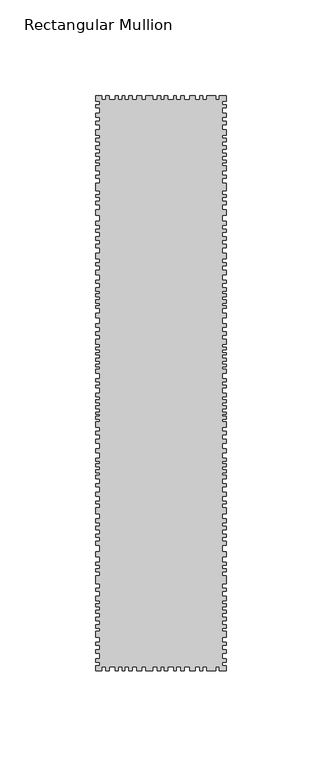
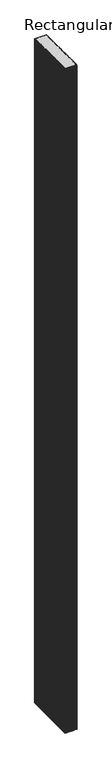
"""IFC4 building model written with IfcOpenShell, lengths in millimetres: member geometry, Rectangular Mullion : DucoSun Cubic Design louvre 300."""

from ifc_helpers import new_model, si_unit, frame, origin, place, context, project, spatial, polyline, outline, extrude, source, transform, mapped, element, save


def rectangular_mullion_6b931d9c(model_context):
    return source(origin(), model_context, "Body", "SweptSolid", [
        extrude(outline(polyline([(0.0, -297.3782451), (0.0, -300.0), (-3.5455586, -300.0), (-3.5455586, -298.0), (-5.372058, -298.0), (-5.372058, -300.0), (-10.0157006, -300.0), (-10.0157006, -298.0), (-12.1827337, -298.0), (-12.1827337, -300.0), (-13.6996569, -300.0), (-13.6996569, -298.0), (-16.0524358, -298.0), (-16.0524358, -300.0), (-19.1172399, -300.0), (-19.1172399, -298.0), (-21.9034254, -298.0), (-21.9034254, -300.0), (-23.6060943, -300.0), (-23.6060943, -298.0), (-25.9898308, -298.0), (-25.9898308, -300.0), (-27.4757964, -300.0), (-27.4757964, -298.0), (-30.5115322, -298.0), (-30.5115322, -300.0), (-32.2905711, -300.0), (-32.2905711, -298.0), (-34.0, -298.0), (-34.0, -300.0), (-35.8486488, -300.0), (-35.8486488, -298.0), (-38.2128978, -298.0), (-38.2128978, -300.0), (-41.9816511, -300.0), (-41.9816511, -298.0), (-44.0415908, -298.0), (-44.0415908, -300.0), (-46.7335575, -300.0), (-46.7335575, -298.0), (-49.0041729, -298.0), (-49.0041729, -300.0), (-50.8768453, -300.0), (-50.8768453, -298.0), (-52.9367851, -298.0), (-52.9367851, -300.0), (-54.2710642, -300.0), (-54.2710642, -298.0), (-56.3075955, -298.0), (-56.3075955, -300.0), (-57.8993671, -300.0), (-57.8993671, -298.0), (-60.9658683, -298.0), (-60.9658683, -300.0), (-62.9321744, -300.0), (-62.9321744, -298.0), (-64.8750721, -298.0), (-64.8750721, -300.0), (-68.0, -300.0), (-68.0, -297.3782451), (-66.0, -297.3782451), (-66.0, -295.4241521), (-68.0, -295.4241521), (-68.0, -293.6532553), (-66.0, -293.6532553), (-66.0, -290.9460223), (-68.0, -290.9460223), (-68.0, -288.9105087), (-66.0, -288.9105087), (-66.0, -286.7121541), (-68.0, -286.7121541), (-68.0, -285.0023227), (-66.0, -285.0023227), (-66.0, -282.3561551), (-68.0, -282.3561551), (-68.0, -279.3843053), (-66.0, -279.3843053), (-66.0, -277.8917893), (-68.0, -277.8917893), (-68.0, -275.8425117), (-66.0, -275.8425117), (-66.0, -273.8680636), (-68.0, -273.8680636), (-68.0, -272.1582322), (-66.0, -272.1582322), (-66.0, -270.0820083), (-68.0, -270.0820083), (-68.0, -268.3111116), (-66.0, -268.3111116), (-66.0, -266.4995045), (-68.0, -266.4995045), (-68.0, -265.0713495), (-66.0, -265.0713495), (-66.0, -263.4577392), (-68.0, -263.4577392), (-68.0, -261.0328231), (-66.0, -261.0328231), (-66.0, -258.5725067), (-68.0, -258.5725067), (-68.0, -257.0325964), (-66.0, -257.0325964), (-66.0, -254.5014796), (-68.0, -254.5014796), (-68.0, -250.4127524), (-66.0, -250.4127524), (-66.0, -248.4126391), (-68.0, -248.4126391), (-68.0, -246.8373286), (-66.0, -246.8373286), (-66.0, -244.9965163), (-68.0, -244.9965163), (-68.0, -243.3504053), (-66.0, -243.3504053), (-66.0, -240.3767855), (-68.0, -240.3767855), (-68.0, -237.9545244), (-66.0, -237.9545244), (-66.0, -234.5552168), (-68.0, -234.5552168), (-68.0, -232.5197032), (-66.0, -232.5197032), (-66.0, -230.239928), (-68.0, -230.239928), (-68.0, -228.6929377), (-66.0, -228.6929377), (-66.0, -226.4335177), (-68.0, -226.4335177), (-68.0, -224.5608452), (-66.0, -224.5608452), (-66.0, -222.6271073), (-68.0, -222.6271073), (-68.0, -220.5508835), (-66.0, -220.5508835), (-66.0, -218.0064916), (-68.0, -218.0064916), (-68.0, -214.9328661), (-66.0, -214.9328661), (-66.0, -212.9177077), (-68.0, -212.9177077), (-68.0, -211.4114277), (-66.0, -211.4114277), (-66.0, -208.9688114), (-68.0, -208.9688114), (-68.0, -206.7118273), (-66.0, -206.7118273), (-66.0, -203.8852623), (-68.0, -203.8852623), (-68.0, -202.4316003), (-66.0, -202.4316003), (-66.0, -199.9011516), (-68.0, -199.9011516), (-68.0, -197.8552569), (-66.0, -197.8552569), (-66.0, -196.6169522), (-68.0, -196.6169522), (-68.0, -195.0825312), (-66.0, -195.0825312), (-66.0, -193.4673512), (-68.0, -193.4673512), (-68.0, -192.0675286), (-66.0, -192.0675286), (-66.0, -190.5869469), (-68.0, -190.5869469), (-68.0, -189.1602046), (-66.0, -189.1602046), (-66.0, -186.3310055), (-68.0, -186.3310055), (-68.0, -184.2608252), (-66.0, -184.2608252), (-66.0, -181.1919832), (-68.0, -181.1919832), (-68.0, -179.2537672), (-66.0, -179.2537672), (-66.0, -176.9360418), (-68.0, -176.9360418), (-68.0, -175.0004598), (-66.0, -175.0004598), (-66.0, -172.9007258), (-68.0, -172.9007258), (-68.0, -170.1010805), (-66.0, -170.1010805), (-66.0, -168.8089365), (-68.0, -168.8089365), (-68.0, -167.3014351), (-66.0, -167.3014351), (-66.0, -166.0362108), (-68.0, -166.0362108), (-68.0, -165.0401831), (-66.0, -165.0401831), (-66.0, -163.2096458), (-68.0, -163.2096458), (-68.0, -161.6483051), (-66.0, -161.6483051), (-66.0, -160.1408038), (-68.0, -160.1408038), (-68.0, -158.6063828), (-66.0, -158.6063828), (-66.0, -157.0719618), (-68.0, -157.0719618), (-68.0, -155.0799064), (-66.0, -155.0799064), (-66.0, -152.3762692), (-68.0, -152.3762692), (-68.0, -150.8903036), (-66.0, -150.8903036), (-66.0, -149.1257194), (-68.0, -149.1257194), (-68.0, -147.6087962), (-66.0, -147.6087962), (-66.0, -144.8535683), (-68.0, -144.8535683), (-68.0, -142.7484504), (-66.0, -142.7484504), (-66.0, -141.4172729), (-68.0, -141.4172729), (-68.0, -139.9622649), (-66.0, -139.9622649), (-66.0, -138.3524688), (-68.0, -138.3524688), (-68.0, -136.8355456), (-66.0, -136.8355456), (-66.0, -135.1947919), (-68.0, -135.1947919), (-68.0, -133.9255296), (-66.0, -133.9255296), (-66.0, -132.5014792), (-68.0, -132.5014792), (-68.0, -131.1083865), (-66.0, -131.1083865), (-66.0, -129.6843361), (-68.0, -129.6843361), (-68.0, -127.0529387), (-66.0, -127.0529387), (-66.0, -124.9787784), (-68.0, -124.9787784), (-68.0, -123.0284485), (-66.0, -123.0284485), (-66.0, -120.7995001), (-68.0, -120.7995001), (-68.0, -118.8182126), (-66.0, -118.8182126), (-66.0, -115.6914933), (-68.0, -115.6914933), (-68.0, -113.4935025), (-66.0, -113.4935025), (-66.0, -110.954978), (-68.0, -110.954978), (-68.0, -109.4070971), (-66.0, -109.4070971), (-66.0, -108.1378348), (-68.0, -108.1378348), (-68.0, -106.4970812), (-66.0, -106.4970812), (-66.0, -104.8253698), (-68.0, -104.8253698), (-68.0, -103.3394042), (-66.0, -103.3394042), (-66.0, -102.0391843), (-68.0, -102.0391843), (-68.0, -100.0578969), (-66.0, -100.0578969), (-66.0, -97.6741604), (-68.0, -97.6741604), (-68.0, -96.0953219), (-66.0, -96.0953219), (-66.0, -93.3091364), (-68.0, -93.3091364), (-68.0, -91.0182728), (-66.0, -91.0182728), (-66.0, -88.572621), (-68.0, -88.572621), (-68.0, -87.1485707), (-66.0, -87.1485707), (-66.0, -85.0124951), (-68.0, -85.0124951), (-68.0, -82.1643944), (-66.0, -82.1643944), (-66.0, -79.3782089), (-68.0, -79.3782089), (-68.0, -77.427879), (-66.0, -77.427879), (-66.0, -75.4156339), (-68.0, -75.4156339), (-68.0, -73.6510498), (-66.0, -73.6510498), (-66.0, -71.1744404), (-68.0, -71.1744404), (-68.0, -69.6884748), (-66.0, -69.6884748), (-66.0, -67.5523993), (-68.0, -67.5523993), (-68.0, -65.4163237), (-66.0, -65.4163237), (-66.0, -62.1967316), (-68.0, -62.1967316), (-68.0, -59.5343765), (-66.0, -59.5343765), (-66.0, -56.7791486), (-68.0, -56.7791486), (-68.0, -55.0764797), (-66.0, -55.0764797), (-66.0, -52.9404041), (-68.0, -52.9404041), (-68.0, -51.6092266), (-66.0, -51.6092266), (-66.0, -49.5660239), (-68.0, -49.5660239), (-68.0, -45.512038), (-66.0, -45.512038), (-66.0, -43.0030092), (-68.0, -43.0030092), (-68.0, -41.3312979), (-66.0, -41.3312979), (-66.0, -39.0404342), (-68.0, -39.0404342), (-68.0, -36.5638249), (-66.0, -36.5638249), (-66.0, -35.015944), (-68.0, -35.015944), (-68.0, -33.5609361), (-66.0, -33.5609361), (-66.0, -31.5796486), (-68.0, -31.5796486), (-68.0, -30.0627254), (-66.0, -30.0627254), (-66.0, -27.8337769), (-68.0, -27.8337769), (-68.0, -26.1620656), (-66.0, -26.1620656), (-66.0, -24.0259901), (-68.0, -24.0259901), (-68.0, -22.0756602), (-66.0, -22.0756602), (-66.0, -20.6516099), (-68.0, -20.6516099), (-68.0, -17.7415939), (-66.0, -17.7415939), (-66.0, -15.2030693), (-68.0, -15.2030693), (-68.0, -13.1908242), (-66.0, -13.1908242), (-66.0, -11.2404944), (-68.0, -11.2404944), (-68.0, -9.1353764), (-66.0, -9.1353764), (-66.0, -6.2563181), (-68.0, -6.2563181), (-68.0, -4.6155644), (-66.0, -4.6155644), (-66.0, -2.8509802), (-68.0, -2.8509802), (-68.0, 0.0), (-64.8750721, 0.0), (-64.8750721, -2.0), (-62.9321744, -2.0), (-62.9321744, 0.0), (-60.9658683, 0.0), (-60.9658683, -2.0), (-57.8993671, -2.0), (-57.8993671, 0.0), (-56.3075955, 0.0), (-56.3075955, -2.0), (-54.2710642, -2.0), (-54.2710642, 0.0), (-52.9367851, 0.0), (-52.9367851, -2.0), (-50.8768453, -2.0), (-50.8768453, 0.0), (-49.0041729, 0.0), (-49.0041729, -2.0), (-46.7335575, -2.0), (-46.7335575, 0.0), (-44.0415908, 0.0), (-44.0415908, -2.0), (-41.9816511, -2.0), (-41.9816511, 0.0), (-38.2128978, 0.0), (-38.2128978, -2.0), (-35.8486488, -2.0), (-35.8486488, 0.0), (-34.0, 0.0), (-34.0, -2.0), (-32.2905711, -2.0), (-32.2905711, 0.0), (-30.5115322, 0.0), (-30.5115322, -2.0), (-27.4757964, -2.0), (-27.4757964, 0.0), (-25.9898308, 0.0), (-25.9898308, -2.0), (-23.6060943, -2.0), (-23.6060943, 0.0), (-21.9034254, 0.0), (-21.9034254, -2.0), (-19.1172399, -2.0), (-19.1172399, 0.0), (-16.0524358, 0.0), (-16.0524358, -2.0), (-13.6996569, -2.0), (-13.6996569, 0.0), (-12.1827337, 0.0), (-12.1827337, -2.0), (-10.0157006, -2.0), (-10.0157006, 0.0), (-5.372058, 0.0), (-5.372058, -2.0), (-3.5455586, -2.0), (-3.5455586, 0.0), (0.0, 0.0), (0.0, -2.8509802), (-2.0, -2.8509802), (-2.0, -4.6155644), (0.0, -4.6155644), (0.0, -6.2563181), (-2.0, -6.2563181), (-2.0, -9.1353764), (0.0, -9.1353764), (0.0, -11.2404944), (-2.0, -11.2404944), (-2.0, -13.1908242), (0.0, -13.1908242), (0.0, -15.2030693), (-2.0, -15.2030693), (-2.0, -17.7415939), (0.0, -17.7415939), (0.0, -20.6516099), (-2.0, -20.6516099), (-2.0, -22.0756602), (0.0, -22.0756602), (0.0, -24.0259901), (-2.0, -24.0259901), (-2.0, -26.1620656), (0.0, -26.1620656), (0.0, -27.8337769), (-2.0, -27.8337769), (-2.0, -30.0627254), (0.0, -30.0627254), (0.0, -31.5796486), (-2.0, -31.5796486), (-2.0, -33.5609361), (0.0, -33.5609361), (0.0, -35.015944), (-2.0, -35.015944), (-2.0, -36.5638249), (0.0, -36.5638249), (0.0, -39.0404342), (-2.0, -39.0404342), (-2.0, -41.3312979), (0.0, -41.3312979), (0.0, -43.0030092), (-2.0, -43.0030092), (-2.0, -45.512038), (0.0, -45.512038), (0.0, -49.5660239), (-2.0, -49.5660239), (-2.0, -51.6092266), (0.0, -51.6092266), (0.0, -52.9404041), (-2.0, -52.9404041), (-2.0, -55.0764797), (0.0, -55.0764797), (0.0, -56.7791486), (-2.0, -56.7791486), (-2.0, -59.5343765), (0.0, -59.5343765), (0.0, -62.1967316), (-2.0, -62.1967316), (-2.0, -65.4163237), (0.0, -65.4163237), (0.0, -67.5523993), (-2.0, -67.5523993), (-2.0, -69.6884748), (0.0, -69.6884748), (0.0, -71.1744404), (-2.0, -71.1744404), (-2.0, -73.6510498), (0.0, -73.6510498), (0.0, -75.4156339), (-2.0, -75.4156339), (-2.0, -77.427879), (0.0, -77.427879), (0.0, -79.3782089), (-2.0, -79.3782089), (-2.0, -82.1643944), (0.0, -82.1643944), (0.0, -85.0124951), (-2.0, -85.0124951), (-2.0, -87.1485707), (0.0, -87.1485707), (0.0, -88.572621), (-2.0, -88.572621), (-2.0, -91.0182728), (0.0, -91.0182728), (0.0, -93.3091364), (-2.0, -93.3091364), (-2.0, -96.0953219), (0.0, -96.0953219), (0.0, -97.6741604), (-2.0, -97.6741604), (-2.0, -100.0578969), (0.0, -100.0578969), (0.0, -102.0391843), (-2.0, -102.0391843), (-2.0, -103.3394042), (0.0, -103.3394042), (0.0, -104.8253698), (-2.0, -104.8253698), (-2.0, -106.4970812), (0.0, -106.4970812), (0.0, -108.1378348), (-2.0, -108.1378348), (-2.0, -109.4070971), (0.0, -109.4070971), (0.0, -110.954978), (-2.0, -110.954978), (-2.0, -113.4935025), (0.0, -113.4935025), (0.0, -115.6914933), (-2.0, -115.6914933), (-2.0, -118.8182126), (0.0, -118.8182126), (0.0, -120.7995001), (-2.0, -120.7995001), (-2.0, -123.0284485), (0.0, -123.0284485), (0.0, -124.9787784), (-2.0, -124.9787784), (-2.0, -127.0529387), (0.0, -127.0529387), (0.0, -129.6843361), (-2.0, -129.6843361), (-2.0, -131.1083865), (0.0, -131.1083865), (0.0, -132.5014792), (-2.0, -132.5014792), (-2.0, -133.9255296), (0.0, -133.9255296), (0.0, -135.1947919), (-2.0, -135.1947919), (-2.0, -136.8355456), (0.0, -136.8355456), (0.0, -138.3524688), (-2.0, -138.3524688), (-2.0, -139.9622649), (0.0, -139.9622649), (0.0, -141.4172729), (-2.0, -141.4172729), (-2.0, -142.7484504), (0.0, -142.7484504), (0.0, -144.8535683), (-2.0, -144.8535683), (-2.0, -147.6087962), (0.0, -147.6087962), (0.0, -149.1257194), (-2.0, -149.1257194), (-2.0, -150.8903036), (0.0, -150.8903036), (0.0, -152.3762692), (-2.0, -152.3762692), (-2.0, -155.0799064), (0.0, -155.0799064), (0.0, -157.0719618), (-2.0, -157.0719618), (-2.0, -158.6063828), (0.0, -158.6063828), (0.0, -160.1408038), (-2.0, -160.1408038), (-2.0, -161.6483051), (0.0, -161.6483051), (0.0, -163.2096458), (-2.0, -163.2096458), (-2.0, -165.0401831), (0.0, -165.0401831), (0.0, -166.0362108), (-2.0, -166.0362108), (-2.0, -167.3014351), (0.0, -167.3014351), (0.0, -168.8089365), (-2.0, -168.8089365), (-2.0, -170.1010805), (0.0, -170.1010805), (0.0, -172.9007258), (-2.0, -172.9007258), (-2.0, -175.0004598), (0.0, -175.0004598), (0.0, -176.9360418), (-2.0, -176.9360418), (-2.0, -179.2537672), (0.0, -179.2537672), (0.0, -181.1919832), (-2.0, -181.1919832), (-2.0, -184.2608252), (0.0, -184.2608252), (0.0, -186.3310055), (-2.0, -186.3310055), (-2.0, -189.1602046), (0.0, -189.1602046), (0.0, -190.5869469), (-2.0, -190.5869469), (-2.0, -192.0675286), (0.0, -192.0675286), (0.0, -193.4673512), (-2.0, -193.4673512), (-2.0, -195.0825312), (0.0, -195.0825312), (0.0, -196.6169522), (-2.0, -196.6169522), (-2.0, -197.8552569), (0.0, -197.8552569), (0.0, -199.9011516), (-2.0, -199.9011516), (-2.0, -202.4316003), (0.0, -202.4316003), (0.0, -203.8852623), (-2.0, -203.8852623), (-2.0, -206.7118273), (0.0, -206.7118273), (0.0, -208.9688114), (-2.0, -208.9688114), (-2.0, -211.4114277), (0.0, -211.4114277), (0.0, -212.9177077), (-2.0, -212.9177077), (-2.0, -214.9328661), (0.0, -214.9328661), (0.0, -218.0064916), (-2.0, -218.0064916), (-2.0, -220.5508835), (0.0, -220.5508835), (0.0, -222.6271073), (-2.0, -222.6271073), (-2.0, -224.5608452), (0.0, -224.5608452), (0.0, -226.4335177), (-2.0, -226.4335177), (-2.0, -228.6929377), (0.0, -228.6929377), (0.0, -230.239928), (-2.0, -230.239928), (-2.0, -232.5197032), (0.0, -232.5197032), (0.0, -234.5552168), (-2.0, -234.5552168), (-2.0, -237.9545244), (0.0, -237.9545244), (0.0, -240.3767855), (-2.0, -240.3767855), (-2.0, -243.3504053), (0.0, -243.3504053), (0.0, -244.9965163), (-2.0, -244.9965163), (-2.0, -246.8373286), (0.0, -246.8373286), (0.0, -248.4126391), (-2.0, -248.4126391), (-2.0, -250.4127524), (0.0, -250.4127524), (0.0, -254.5014796), (-2.0, -254.5014796), (-2.0, -257.0325964), (0.0, -257.0325964), (0.0, -258.5725067), (-2.0, -258.5725067), (-2.0, -261.0328231), (0.0, -261.0328231), (0.0, -263.4577392), (-2.0, -263.4577392), (-2.0, -265.0713495), (0.0, -265.0713495), (0.0, -266.4995045), (-2.0, -266.4995045), (-2.0, -268.3111116), (0.0, -268.3111116), (0.0, -270.0820083), (-2.0, -270.0820083), (-2.0, -272.1582322), (0.0, -272.1582322), (0.0, -273.8680636), (-2.0, -273.8680636), (-2.0, -275.8425117), (0.0, -275.8425117), (0.0, -277.8917893), (-2.0, -277.8917893), (-2.0, -279.3843053), (0.0, -279.3843053), (0.0, -282.3561551), (-2.0, -282.3561551), (-2.0, -285.0023227), (0.0, -285.0023227), (0.0, -286.7121541), (-2.0, -286.7121541), (-2.0, -288.9105087), (0.0, -288.9105087), (0.0, -290.9460223), (-2.0, -290.9460223), (-2.0, -293.6532553), (0.0, -293.6532553), (0.0, -295.4241521), (-2.0, -295.4241521), (-2.0, -297.3782451), (0.0, -297.3782451)])), frame((0.0, 0.0, -4000.0), z_axis=(0.0, 0.0, 1.0), x_axis=(1.0, 0.0, 0.0)), (0.0, 0.0, 1.0), 4000.0),
    ])


if __name__ == "__main__":
    model = new_model("IFC4")
    model_context = context("Model", 3, world=origin())
    ifc_project = project(units=[si_unit("LENGTHUNIT", "METRE", prefix="MILLI")], contexts=[model_context])
    site = spatial("IfcSite", under=ifc_project)
    building = spatial("IfcBuilding", under=site)
    placement = place(None, origin())
    rectangular_mullion_shape = rectangular_mullion_6b931d9c(model_context)
    element("IfcMember", 1, ObjectType="Rectangular Mullion : DucoSun Cubic Design louvre 300", at=placement, inside=building, context=model_context, shape_type="MappedRepresentation", body=[
        mapped(rectangular_mullion_shape, transform((0.0, 0.0, 0.0), x_axis=(1.0, 0.0, 0.0), y_axis=(0.0, 1.0, 0.0), z_axis=(0.0, 0.0, 1.0))),
    ])
    save(model, "model.ifc")
